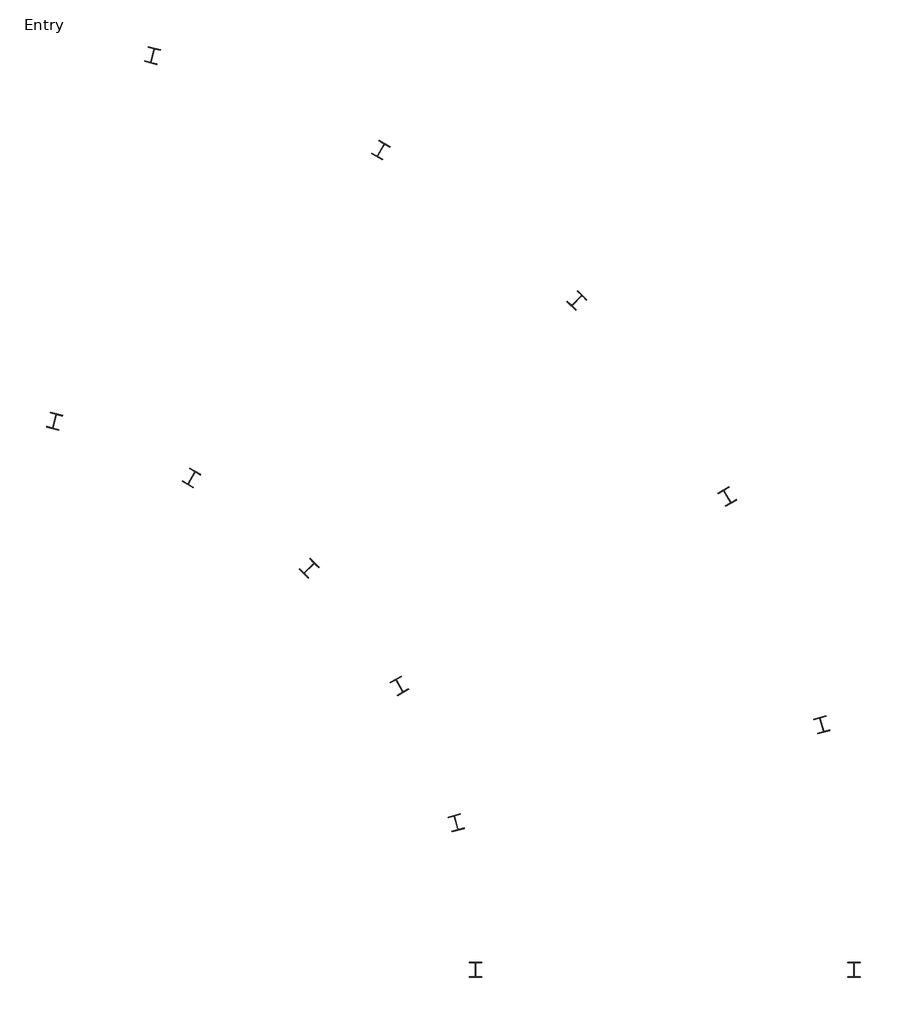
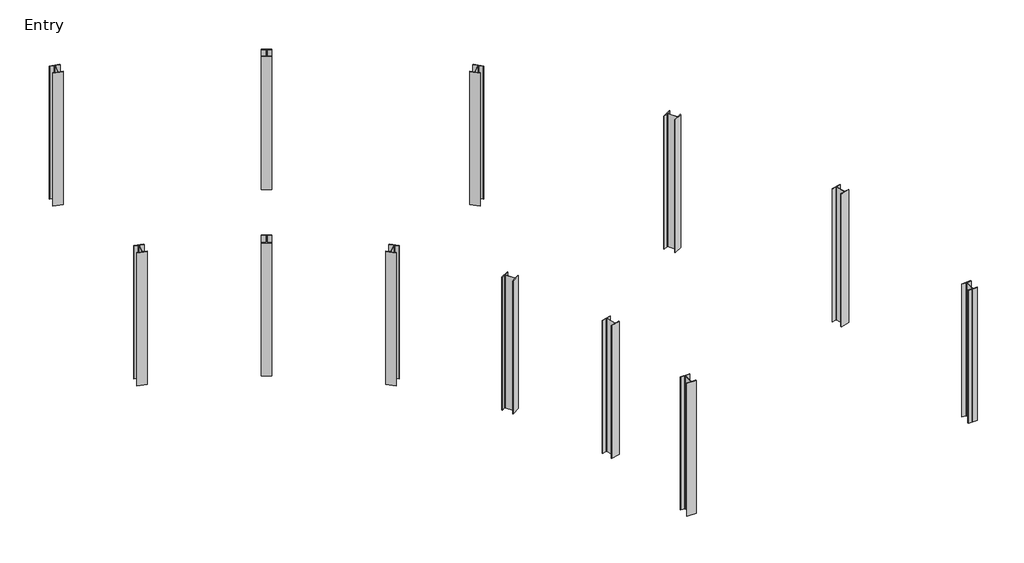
# One storey: 12 columns.
"""IFC4 building model written with IfcOpenShell, lengths in millimetres."""

import ifcopenshell
import ifcopenshell.guid

model = None  # the IFC model being written
_history = None  # IfcOwnerHistory: only IFC2X3 demands one
_inside = {}  # id of a spatial element -> (the spatial element, [elements in it])
_under = {}  # id of a project, library or spatial element -> (it, [spatial elements below it])
_declared = {}  # id of a project -> (the project, [libraries it declares])
_typed = {}  # id of a type object -> (the type object, [elements of that type])
_made_of = {}  # id of a material, layer set ... -> (it, [elements and type objects made of it])


def new_model(schema):
    """Start an empty IFC model of exactly this schema.

    Asked for "IFC4X3", IfcOpenShell would pick the latest addendum, in which some entities
    have other attributes; the version numbers below select the first issue.
    IFC2X3 requires an IfcOwnerHistory on every rooted entity: one is made here for all.
    """
    global model, _history
    if schema == "IFC4X3":
        model = ifcopenshell.file(schema_version=(4, 3, 0, 0))
    else:
        model = ifcopenshell.file(schema=schema)
    _inside.clear()
    _under.clear()
    _declared.clear()
    _typed.clear()
    _made_of.clear()
    _history = None
    if model.schema == "IFC2X3":
        org = make("IfcOrganization", Name="unknown")
        user = make(
            "IfcPersonAndOrganization",
            ThePerson=make("IfcPerson", FamilyName="unknown"),
            TheOrganization=org,
        )
        app = make(
            "IfcApplication",
            ApplicationDeveloper=org,
            Version="unknown",
            ApplicationFullName="unknown",
            ApplicationIdentifier="unknown",
        )
        _history = make(
            "IfcOwnerHistory",
            OwningUser=user,
            OwningApplication=app,
            ChangeAction="ADDED",
            CreationDate=0,
        )
    return model


def make(cls, **values):
    """One entity of the class cls with the attributes given. An attribute that is None is left unset."""
    return model.create_entity(
        cls, **{name: value for name, value in values.items() if value is not None}
    )


def rooted(cls, **values):
    """An entity with a GlobalId (a new one), such as an element, a storey or a relation."""
    return make(cls, GlobalId=ifcopenshell.guid.new(), OwnerHistory=_history, **values)


def si_unit(unit_type, name, prefix=None):
    """IfcSIUnit, for example si_unit("LENGTHUNIT", "METRE", prefix="MILLI")."""
    return make("IfcSIUnit", UnitType=unit_type, Prefix=prefix, Name=name)


def assignment(units):
    """IfcUnitAssignment: the units of a project."""
    return None if units is None else make("IfcUnitAssignment", Units=units)


def point(xyz):
    """IfcCartesianPoint."""
    return None if xyz is None else make("IfcCartesianPoint", Coordinates=xyz)


def direction(xyz):
    """IfcDirection."""
    return None if xyz is None else make("IfcDirection", DirectionRatios=xyz)


def frame(location, z_axis=None, x_axis=None):
    """IfcAxis2Placement3D, a coordinate frame: its origin and axes. An axis left out is left unset."""
    return make(
        "IfcAxis2Placement3D",
        Location=point(location),
        Axis=direction(z_axis),
        RefDirection=direction(x_axis),
    )


def frame_2d(location, x_axis=None):
    """IfcAxis2Placement2D, a coordinate frame in the plane: its origin and x axis."""
    return make(
        "IfcAxis2Placement2D", Location=point(location), RefDirection=direction(x_axis)
    )


def origin():
    """The frame at (0, 0, 0) with its axes left unset."""
    return frame((0.0, 0.0, 0.0))


def origin_with_axes():
    """The frame at (0, 0, 0) with the z axis (0, 0, 1) and the x axis (1, 0, 0) written out."""
    return frame((0.0, 0.0, 0.0), z_axis=(0.0, 0.0, 1.0), x_axis=(1.0, 0.0, 0.0))


def place(relative_to, where):
    """IfcLocalPlacement: puts the frame where relative to a parent placement (None: the world)."""
    return make(
        "IfcLocalPlacement", PlacementRelTo=relative_to, RelativePlacement=where
    )


def context(
    kind, dimensions, precision=None, world=None, true_north=None, identifier=None
):
    """IfcGeometricRepresentationContext, for example the 3D "Model" context."""
    return make(
        "IfcGeometricRepresentationContext",
        ContextIdentifier=identifier,
        ContextType=kind,
        CoordinateSpaceDimension=dimensions,
        Precision=precision,
        WorldCoordinateSystem=world,
        TrueNorth=true_north,
    )


def project(units=None, contexts=None):
    """IfcProject with its units and contexts."""
    return rooted(
        "IfcProject",
        Name="project",
        RepresentationContexts=contexts,
        UnitsInContext=assignment(units),
    )


def spatial(cls, under=None, at=None, **own):
    """A site, building, storey or space (cls), placed at a placement, below another one or the project."""
    s = rooted(cls, ObjectPlacement=at, **own)
    if under is not None:
        _under.setdefault(under.id(), (under, []))[1].append(s)
    return s


def polyline(points):
    """IfcPolyline through the points."""
    return make("IfcPolyline", Points=[point(p) for p in points])


def circle_curve(where, radius):
    """IfcCircle in the frame where."""
    return make("IfcCircle", Position=where, Radius=radius)


def trimmed(basis, trim1, trim2, sense, master):
    """IfcTrimmedCurve: the piece of a basis curve between two trims."""
    return make(
        "IfcTrimmedCurve",
        BasisCurve=basis,
        Trim1=trim1,
        Trim2=trim2,
        SenseAgreement=sense,
        MasterRepresentation=master,
    )


def segment(curve, same_sense, transition):
    """IfcCompositeCurveSegment."""
    return make(
        "IfcCompositeCurveSegment",
        Transition=transition,
        SameSense=same_sense,
        ParentCurve=curve,
    )


def composite_curve(segments, self_intersect=None):
    """IfcCompositeCurve: segments joined end to end."""
    return make("IfcCompositeCurve", Segments=segments, SelfIntersect=self_intersect)


def outline(outer, holes=None, kind="AREA"):
    """IfcArbitraryClosedProfileDef: a profile drawn as a closed curve; with holes, ...WithVoids."""
    if holes is None:
        return make("IfcArbitraryClosedProfileDef", ProfileType=kind, OuterCurve=outer)
    return make(
        "IfcArbitraryProfileDefWithVoids",
        ProfileType=kind,
        OuterCurve=outer,
        InnerCurves=holes,
    )


def extrude(swept, where, along, depth):
    """IfcExtrudedAreaSolid: the profile swept, set in the frame where, extruded along a direction by depth."""
    return make(
        "IfcExtrudedAreaSolid",
        SweptArea=swept,
        Position=where,
        ExtrudedDirection=direction(along),
        Depth=depth,
    )


def shape(context_of_items, identifier, shape_type, items):
    """IfcShapeRepresentation: the items that make up one representation, for example the "Body"."""
    return make(
        "IfcShapeRepresentation",
        ContextOfItems=context_of_items,
        RepresentationIdentifier=identifier,
        RepresentationType=shape_type,
        Items=items,
    )


def source(mapping_origin, context_of_items, identifier, shape_type, items):
    """IfcRepresentationMap: a shape defined once, which mapped items show again and again."""
    return make(
        "IfcRepresentationMap",
        MappingOrigin=mapping_origin,
        MappedRepresentation=shape(context_of_items, identifier, shape_type, items),
    )


def transform(
    local_origin,
    x_axis=None,
    y_axis=None,
    z_axis=None,
    scale=None,
    scale2=None,
    scale3=None,
    uniform=True,
):
    """IfcCartesianTransformationOperator3D, or its non-uniform kind. x_axis, y_axis, z_axis: its Axis1, 2, 3."""
    if uniform:
        return make(
            "IfcCartesianTransformationOperator3D",
            Axis1=direction(x_axis),
            Axis2=direction(y_axis),
            LocalOrigin=point(local_origin),
            Scale=scale,
            Axis3=direction(z_axis),
        )
    return make(
        "IfcCartesianTransformationOperator3DnonUniform",
        Axis1=direction(x_axis),
        Axis2=direction(y_axis),
        LocalOrigin=point(local_origin),
        Scale=scale,
        Axis3=direction(z_axis),
        Scale2=scale2,
        Scale3=scale3,
    )


def mapped(mapping_source, mapping_target):
    """IfcMappedItem: shows the shape of a source again, moved by a transform."""
    return make(
        "IfcMappedItem", MappingSource=mapping_source, MappingTarget=mapping_target
    )


def made_of(thing, what):
    """Note that an element or type object is made of a material, layer set ...; save() writes the relation."""
    if what is not None:
        _made_of.setdefault(what.id(), (what, []))[1].append(thing)
    return thing


def element(
    cls,
    number,
    at=None,
    inside=None,
    cuts=None,
    type_object=None,
    material=None,
    context=None,
    identifier="Body",
    shape_type=None,
    held_by="IfcProductDefinitionShape",
    body=None,
    shapes=None,
    **own,
):
    """One element of the class cls, such as IfcWall. Its Tag is "e" and its number.

    at: its placement. inside: the storey or other place that contains it. cuts: it is an
    opening in that element (IfcRelVoidsElement). A single representation is given by context,
    identifier, shape_type and body (its items); several are given by shapes. held_by: the class
    of the entity that holds the representations. save() writes the other relations.
    """
    e = rooted(cls, Tag="e%d" % number, ObjectPlacement=at, **own)
    if body is not None:
        shapes = [shape(context, identifier, shape_type, body)]
    if shapes is not None:
        e.Representation = make(held_by, Representations=shapes)
    if inside is not None:
        _inside.setdefault(inside.id(), (inside, []))[1].append(e)
    if cuts is not None:
        rooted(
            "IfcRelVoidsElement", RelatingBuildingElement=cuts, RelatedOpeningElement=e
        )
    if type_object is not None:
        _typed.setdefault(type_object.id(), (type_object, []))[1].append(e)
    return made_of(e, material)


def aggregate(whole, parts):
    """IfcRelAggregates: a whole, such as a stair, and the parts it consists of."""
    return rooted("IfcRelAggregates", RelatingObject=whole, RelatedObjects=parts)


def save(model, path):
    """Write the relations noted so far, then the file.

    IfcRelAggregates (storeys below a building ...), IfcRelContainedInSpatialStructure (elements
    in a storey), IfcRelDefinesByType, IfcRelAssociatesMaterial and IfcRelDeclares: one each for
    every whole, place, type object, material and project.
    """
    for whole, parts in _under.values():
        aggregate(whole, parts)
    for where, things in _inside.values():
        rooted(
            "IfcRelContainedInSpatialStructure",
            RelatedElements=things,
            RelatingStructure=where,
        )
    for kind, things in _typed.values():
        rooted("IfcRelDefinesByType", RelatedObjects=things, RelatingType=kind)
    for what, things in _made_of.values():
        rooted("IfcRelAssociatesMaterial", RelatedObjects=things, RelatingMaterial=what)
    for by, libraries in _declared.values():
        rooted("IfcRelDeclares", RelatingContext=by, RelatedDefinitions=libraries)
    model.write(path)


def w_shapes_column_w10x33_b5b4db87(model_context):
    return source(origin(), model_context, "Body", "SweptSolid", [
        extrude(outline(composite_curve([segment(polyline([(101.092, 123.571), (101.092, 112.522), (16.383, 112.522)]), True, "CONTINUOUS"), segment(trimmed(circle_curve(frame_2d((16.383, 99.822)), 12.7), [point((16.383, 112.522))], [point((3.683, 99.822))], True, "CARTESIAN"), True, "CONTINUOUS"), segment(polyline([(3.683, 99.822), (3.683, -99.822)]), True, "CONTINUOUS"), segment(trimmed(circle_curve(frame_2d((16.383, -99.822)), 12.7), [point((3.683, -99.822))], [point((16.383, -112.522))], True, "CARTESIAN"), True, "CONTINUOUS"), segment(polyline([(16.383, -112.522), (101.092, -112.522), (101.092, -123.571), (-101.092, -123.571), (-101.092, -112.522), (-16.383, -112.522)]), True, "CONTINUOUS"), segment(trimmed(circle_curve(frame_2d((-16.383, -99.822)), 12.7), [point((-16.383, -112.522))], [point((-3.683, -99.822))], True, "CARTESIAN"), True, "CONTINUOUS"), segment(polyline([(-3.683, -99.822), (-3.683, 99.822)]), True, "CONTINUOUS"), segment(trimmed(circle_curve(frame_2d((-16.383, 99.822)), 12.7), [point((-3.683, 99.822))], [point((-16.383, 112.522))], True, "CARTESIAN"), True, "CONTINUOUS"), segment(polyline([(-16.383, 112.522), (-101.092, 112.522), (-101.092, 123.571), (101.092, 123.571)]), True, "CONTINUOUS")], self_intersect=False)), origin_with_axes(), (0.0, 0.0, 1.0), 3048.0),
    ])


model = new_model("IFC4")

# Units and contexts
model_context = context("Model", 3, world=origin())
ifc_project = project(units=[si_unit("LENGTHUNIT", "METRE", prefix="MILLI")], contexts=[model_context])

# Site, building, storey
site = spatial("IfcSite", under=ifc_project)
building = spatial("IfcBuilding", under=site)
storey = spatial("IfcBuildingStorey", under=building, Name="Entry", Elevation=0.0)

# Columns
placement = place(None, origin())
w_shapes_column_w10x33_shape = w_shapes_column_w10x33_b5b4db87(model_context)
element("IfcColumn", 1, ObjectType="W Shapes-Column : W10X33", at=placement, inside=storey, context=model_context, shape_type="MappedRepresentation", body=[
    mapped(w_shapes_column_w10x33_shape, transform((-19492.382411, -11290.5551223, 0.0), x_axis=(1.0, 0.0, 0.0), y_axis=(0.0, 1.0, 0.0), z_axis=(0.0, 0.0, 1.0))),
])
element("IfcColumn", 2, ObjectType="W Shapes-Column : W10X33", at=placement, inside=storey, context=model_context, shape_type="MappedRepresentation", body=[
    mapped(w_shapes_column_w10x33_shape, transform((-13396.382411, -11290.5551223, 0.0), x_axis=(1.0, 0.0, 0.0), y_axis=(0.0, 1.0, 0.0), z_axis=(0.0, 0.0, 1.0))),
])
element("IfcColumn", 3, ObjectType="W Shapes-Column : W10X33", at=placement, inside=storey, context=model_context, shape_type="MappedRepresentation", body=[
    mapped(w_shapes_column_w10x33_shape, transform((-19803.9566554, -8923.9137739, 0.0), x_axis=(0.9659258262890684, 0.2588190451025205, 0.0), y_axis=(-0.2588190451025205, 0.9659258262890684, 0.0), z_axis=(0.0, 0.0, 1.0))),
])
element("IfcColumn", 4, ObjectType="W Shapes-Column : W10X33", at=placement, inside=storey, context=model_context, shape_type="MappedRepresentation", body=[
    mapped(w_shapes_column_w10x33_shape, transform((-13915.6728183, -7346.1528749, 0.0), x_axis=(0.9659258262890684, 0.2588190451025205, 0.0), y_axis=(-0.2588190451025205, 0.9659258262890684, 0.0), z_axis=(0.0, 0.0, 1.0))),
])
element("IfcColumn", 5, ObjectType="W Shapes-Column : W10X33", at=placement, inside=storey, context=model_context, shape_type="MappedRepresentation", body=[
    mapped(w_shapes_column_w10x33_shape, transform((-20717.4461188, -6718.5551223, 0.0), x_axis=(0.8660254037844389, 0.4999999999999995, 0.0), y_axis=(-0.4999999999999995, 0.8660254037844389, 0.0), z_axis=(0.0, 0.0, 1.0))),
])
element("IfcColumn", 6, ObjectType="W Shapes-Column : W10X33", at=placement, inside=storey, context=model_context, shape_type="MappedRepresentation", body=[
    mapped(w_shapes_column_w10x33_shape, transform((-15438.1552573, -3670.5551223, 0.0), x_axis=(0.8660254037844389, 0.4999999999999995, 0.0), y_axis=(-0.4999999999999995, 0.8660254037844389, 0.0), z_axis=(0.0, 0.0, 1.0))),
])
element("IfcColumn", 7, ObjectType="W Shapes-Column : W10X33", at=placement, inside=storey, context=model_context, shape_type="MappedRepresentation", body=[
    mapped(w_shapes_column_w10x33_shape, transform((-22170.5980038, -4824.7707151, 0.0), x_axis=(0.7071067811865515, -0.7071067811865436, 0.0), y_axis=(0.7071067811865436, 0.7071067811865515, 0.0), z_axis=(0.0, 0.0, 1.0))),
])
element("IfcColumn", 8, ObjectType="W Shapes-Column : W10X33", at=placement, inside=storey, context=model_context, shape_type="MappedRepresentation", body=[
    mapped(w_shapes_column_w10x33_shape, transform((-17860.0750657, -514.247777, 0.0), x_axis=(0.7071067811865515, -0.7071067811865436, 0.0), y_axis=(0.7071067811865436, 0.7071067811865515, 0.0), z_axis=(0.0, 0.0, 1.0))),
])
element("IfcColumn", 9, ObjectType="W Shapes-Column : W10X33", at=placement, inside=storey, context=model_context, shape_type="MappedRepresentation", body=[
    mapped(w_shapes_column_w10x33_shape, transform((-24064.382411, -3371.6188301, 0.0), x_axis=(0.8660254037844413, -0.49999999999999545, 0.0), y_axis=(0.49999999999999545, 0.8660254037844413, 0.0), z_axis=(0.0, 0.0, 1.0))),
])
element("IfcColumn", 10, ObjectType="W Shapes-Column : W10X33", at=placement, inside=storey, context=model_context, shape_type="MappedRepresentation", body=[
    mapped(w_shapes_column_w10x33_shape, transform((-21016.382411, 1907.6720314, 0.0), x_axis=(0.8660254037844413, -0.49999999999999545, 0.0), y_axis=(0.49999999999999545, 0.8660254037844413, 0.0), z_axis=(0.0, 0.0, 1.0))),
])
element("IfcColumn", 11, ObjectType="W Shapes-Column : W10X33", at=placement, inside=storey, context=model_context, shape_type="MappedRepresentation", body=[
    mapped(w_shapes_column_w10x33_shape, transform((-26269.7410626, -2458.1293667, 0.0), x_axis=(0.9659258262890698, -0.25881904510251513, 0.0), y_axis=(0.25881904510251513, 0.9659258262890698, 0.0), z_axis=(0.0, 0.0, 1.0))),
])
element("IfcColumn", 12, ObjectType="W Shapes-Column : W10X33", at=placement, inside=storey, context=model_context, shape_type="MappedRepresentation", body=[
    mapped(w_shapes_column_w10x33_shape, transform((-24691.9801636, 3430.1544704, 0.0), x_axis=(0.9659258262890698, -0.25881904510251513, 0.0), y_axis=(0.25881904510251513, 0.9659258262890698, 0.0), z_axis=(0.0, 0.0, 1.0))),
])

save(model, "model.ifc")
